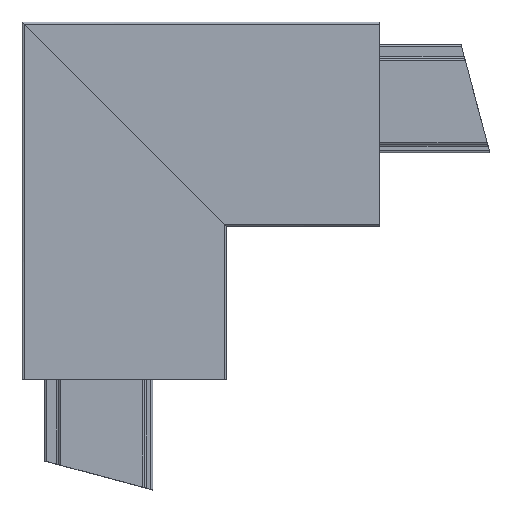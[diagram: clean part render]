
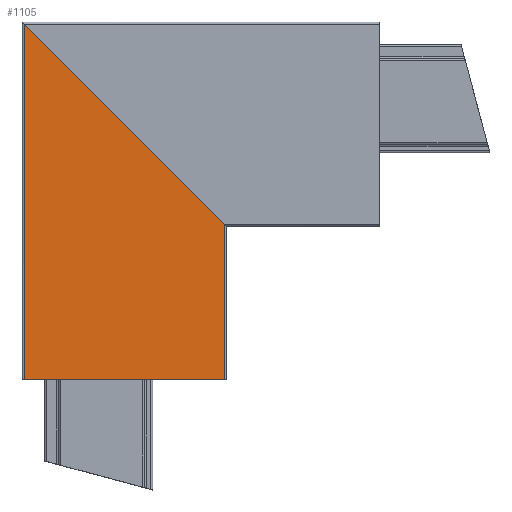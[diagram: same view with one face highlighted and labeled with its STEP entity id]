
A CAD part, top view. The second image highlights one B-rep face of the part: STEP entity #1105.
In plain terms, the highlighted planar face has unit normal (0, 0, 1) as drawn and (0, 0, -1) by its records, which use the part's own axes.
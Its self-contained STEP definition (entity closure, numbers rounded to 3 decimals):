
#100=DIRECTION('',(0.,1.,0.));
#101=VECTOR('',#100,19.6);
#102=CARTESIAN_POINT('',(50.,0.2,-6.25));
#103=LINE('',#102,#101);
#297=DIRECTION('',(-1.,0.,0.));
#298=VECTOR('',#297,34.8);
#299=CARTESIAN_POINT('',(50.,19.8,-6.25));
#300=LINE('',#299,#298);
#301=DIRECTION('',(-0.707,0.707,0.));
#302=VECTOR('',#301,27.719);
#303=CARTESIAN_POINT('',(34.8,0.2,-6.25));
#304=LINE('',#303,#302);
#305=DIRECTION('',(-1.,0.,0.));
#306=VECTOR('',#305,15.2);
#307=CARTESIAN_POINT('',(50.,0.2,-6.25));
#308=LINE('',#307,#306);
#688=CARTESIAN_POINT('',(50.,0.2,-6.25));
#690=VERTEX_POINT('',#688);
#691=CARTESIAN_POINT('',(50.,19.8,-6.25));
#693=VERTEX_POINT('',#691);
#767=CARTESIAN_POINT('',(15.2,19.8,-6.25));
#768=VERTEX_POINT('',#767);
#789=CARTESIAN_POINT('',(34.8,0.2,-6.25));
#790=VERTEX_POINT('',#789);
#1093=CARTESIAN_POINT('',(-50.,0.,-6.25));
#1094=DIRECTION('',(0.,0.,-1.));
#1095=DIRECTION('',(0.,1.,0.));
#1096=AXIS2_PLACEMENT_3D('',#1093,#1094,#1095);
#1097=PLANE('',#1096);
#1098=ORIENTED_EDGE('',*,*,#1085,.T.);
#1099=ORIENTED_EDGE('',*,*,#970,.F.);
#1101=ORIENTED_EDGE('',*,*,#1100,.F.);
#1102=ORIENTED_EDGE('',*,*,#814,.T.);
#1103=EDGE_LOOP('',(#1098,#1099,#1101,#1102));
#1104=FACE_OUTER_BOUND('',#1103,.F.);
#1105=ADVANCED_FACE('',(#1104),#1097,.T.);
#814=EDGE_CURVE('',#690,#693,#103,.T.);
#970=EDGE_CURVE('',#790,#768,#304,.T.);
#1085=EDGE_CURVE('',#693,#768,#300,.T.);
#1100=EDGE_CURVE('',#690,#790,#308,.T.);
